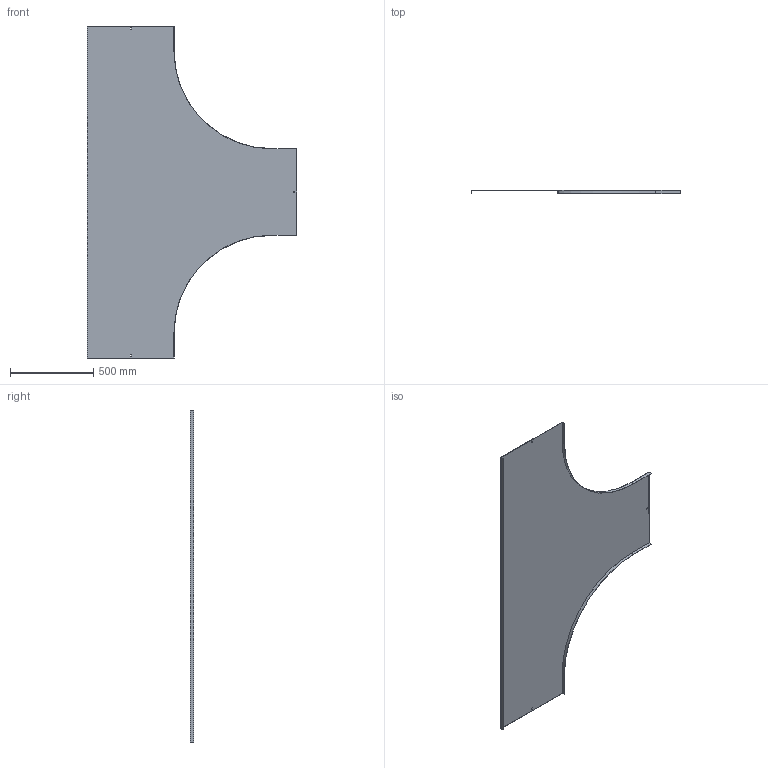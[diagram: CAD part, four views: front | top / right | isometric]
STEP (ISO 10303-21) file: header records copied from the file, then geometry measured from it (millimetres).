
FILE_DESCRIPTION (( 'STEP AP214' ), '1' );
FILE_NAME ('15N6P500.step', '2025-02-21T13:56:21', ( '' ), ( '' ), 'SwSTEP 2.0', 'SolidWorks 2023', '' );
FILE_SCHEMA (( 'AUTOMOTIVE_DESIGN' ));
Length unit declared in the file: millimetre
Products named in the file (1): 15N6P500
Bounding box: 1261.5 x 20 x 2000 mm (x, y, z)
Volume: 2494581 mm3; surface area: 3335440.7 mm2
Topology: 1 solids, 1 shells, 34 faces, 96 edges, 64 vertices
Faces by surface type: plane 30, cylinder 4
Entity records: 1123 total; most frequent: CARTESIAN_POINT 195, ORIENTED_EDGE 192, DIRECTION 174, EDGE_CURVE 96, VECTOR 88, LINE 88, VERTEX_POINT 64, AXIS2_PLACEMENT_3D 43
